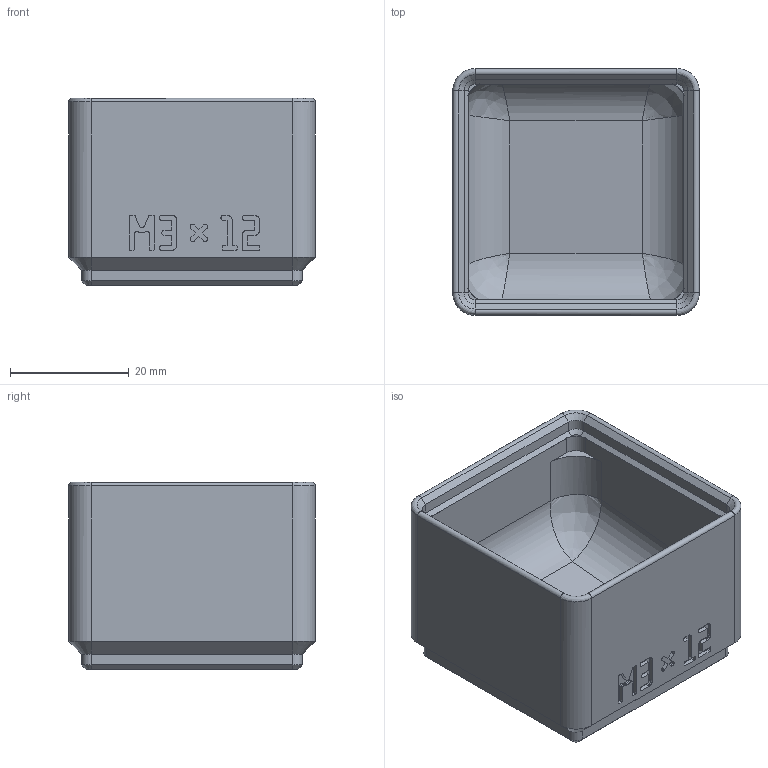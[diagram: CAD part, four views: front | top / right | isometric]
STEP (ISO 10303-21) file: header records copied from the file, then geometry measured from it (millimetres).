
FILE_DESCRIPTION(('Open CASCADE Model'),'2;1');
FILE_NAME('Open CASCADE Shape Model','2026-11-03T17:57:44',('Author'),( 'Open CASCADE'),'Open CASCADE STEP processor 8.0','build123d', 'Unknown');
FILE_SCHEMA(('AUTOMOTIVE_DESIGN { 1 0 10303 214 1 1 1 1 }'));
Length unit declared in the file: millimetre
Products named in the file (1): COMPOUND
Bounding box: 41.5 x 41.5 x 31.55 mm (x, y, z)
Volume: 18950.2 mm3; surface area: 11341.7 mm2
Topology: 1 solids, 1 shells, 639 faces, 1808 edges, 1172 vertices
Faces by surface type: plane 575, cylinder 36, cone 20, bspline 8
Entity records: 45062 total; most frequent: CARTESIAN_POINT 11158, DIRECTION 5518, LINE 4124, VECTOR 4124, ORIENTED_EDGE 3608, PCURVE 3608, DEFINITIONAL_REPRESENTATION 3608, EDGE_CURVE 1804
